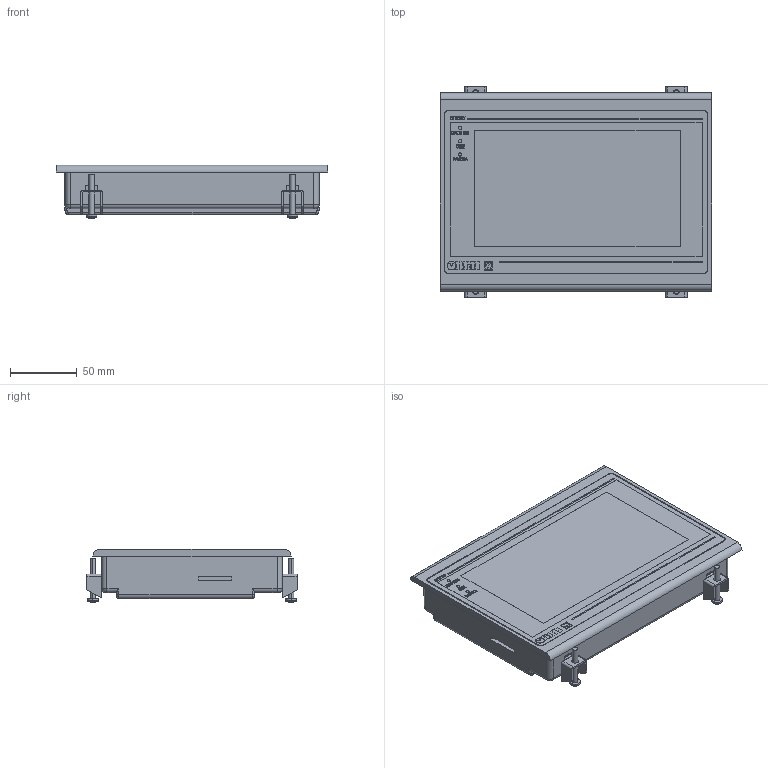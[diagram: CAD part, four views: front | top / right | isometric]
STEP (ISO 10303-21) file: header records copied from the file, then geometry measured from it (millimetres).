
FILE_DESCRIPTION (( 'STEP AP214' ), '1' );
FILE_NAME ('3D ìîäåëü ÑÏÊ107.STEP', '2017-07-07T09:01:45', ( '' ), ( '' ), 'SwSTEP 2.0', 'SolidWorks 2014', '' );
FILE_SCHEMA (( 'AUTOMOTIVE_DESIGN' ));
Length unit declared in the file: millimetre
Products named in the file (10): ÑÏÊ107_Êîðïóñ; pan head cross recess screw_din_ISO 7045 - M3 x 8 - Z --- 8N; Çàæèì ìåòàë; 幄樏歑 9pin; USB ðîçåòêà; USB 2; 冓踖樦 2EDGR-5.08-3p; 3D ìîäåëü ÑÏÊ107; pan head cross recess screw_din_ISO 7045 - M4 x 30 - Z --- 30N; ÑÏÊ107_Ïàíåëü ëèöåâàÿ
Assembly tree (19 placements, depth 2):
  3D ìîäåëü ÑÏÊ107
    ÑÏÊ107_Êîðïóñ
    ÑÏÊ107_Ïàíåëü ëèöåâàÿ
    USB ðîçåòêà
    冓踖樦 2EDGR-5.08-3p
    USB 2
    幄樏歑 9pin  x2
    Çàæèì ìåòàë  x4
    pan head cross recess screw_din_ISO 7045 - M3 x 8 - Z --- 8N  x4
    pan head cross recess screw_din_ISO 7045 - M4 x 30 - Z --- 30N  x4
Bounding box: 204 x 158 x 40.02 mm (x, y, z)
Volume: 933342.9 mm3; surface area: 154569.2 mm2
Topology: 41 solids, 41 shells, 1932 faces, 4829 edges, 3115 vertices
Faces by surface type: plane 1173, bspline 372, cylinder 258, cone 73, torus 40, sphere 16
Entity records: 61054 total; most frequent: CARTESIAN_POINT 16834, ORIENTED_EDGE 7634, DIRECTION 5737, EDGE_CURVE 3817, VECTOR 2611, LINE 2611, VERTEX_POINT 2506, EDGE_LOOP 1631
